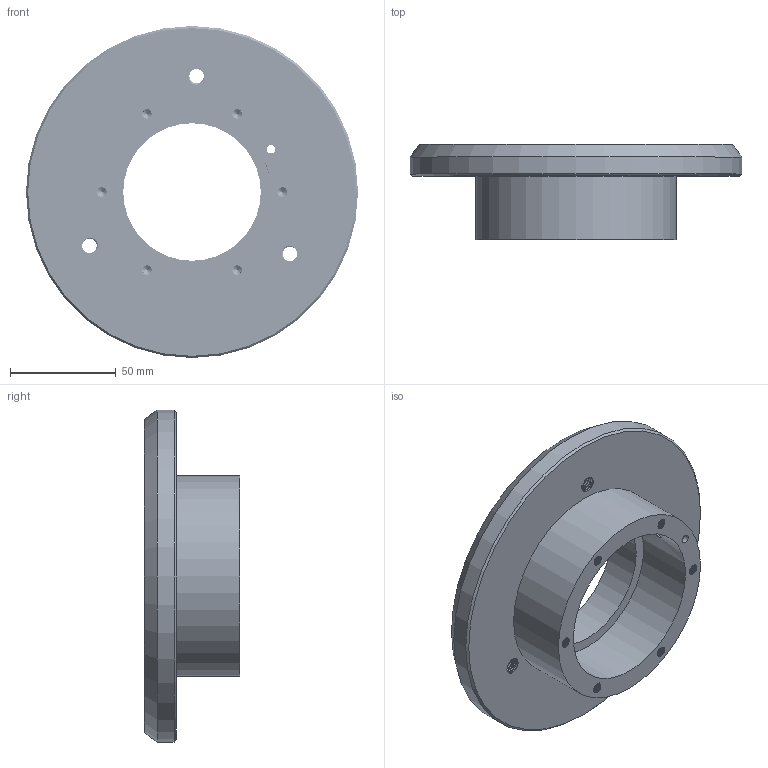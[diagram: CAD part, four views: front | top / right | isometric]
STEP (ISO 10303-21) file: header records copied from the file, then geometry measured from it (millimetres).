
FILE_DESCRIPTION(('FreeCAD Model'),'2;1');
FILE_NAME('Open CASCADE Shape Model','2022-12-02T20:26:51',(''),(''), 'Open CASCADE STEP processor 7.6','FreeCAD','Unknown');
FILE_SCHEMA(('AUTOMOTIVE_DESIGN { 1 0 10303 214 1 1 1 1 }'));
Length unit declared in the file: millimetre
Products named in the file (1): Body
Bounding box: 157 x 45 x 157 mm (x, y, z)
Volume: 310941.5 mm3; surface area: 62285.8 mm2
Topology: 1 solids, 1 shells, 1040 faces, 2128 edges, 1093 vertices
Faces by surface type: bspline 756, cylinder 262, plane 13, cone 9
Full cylindrical faces by diameter (mm): 4 x2, 4.224 x186, 5.026 x20, 6.828 x36, 65 x1, 75 x1, 95 x1, 157 x1
Entity records: 215129 total; most frequent: CARTESIAN_POINT 184896, B_SPLINE_CURVE_WITH_KNOTS 5992, ORIENTED_EDGE 4244, PCURVE 4244, DEFINITIONAL_REPRESENTATION 4244, EDGE_CURVE 2122, SURFACE_CURVE 2100, VERTEX_POINT 1093
